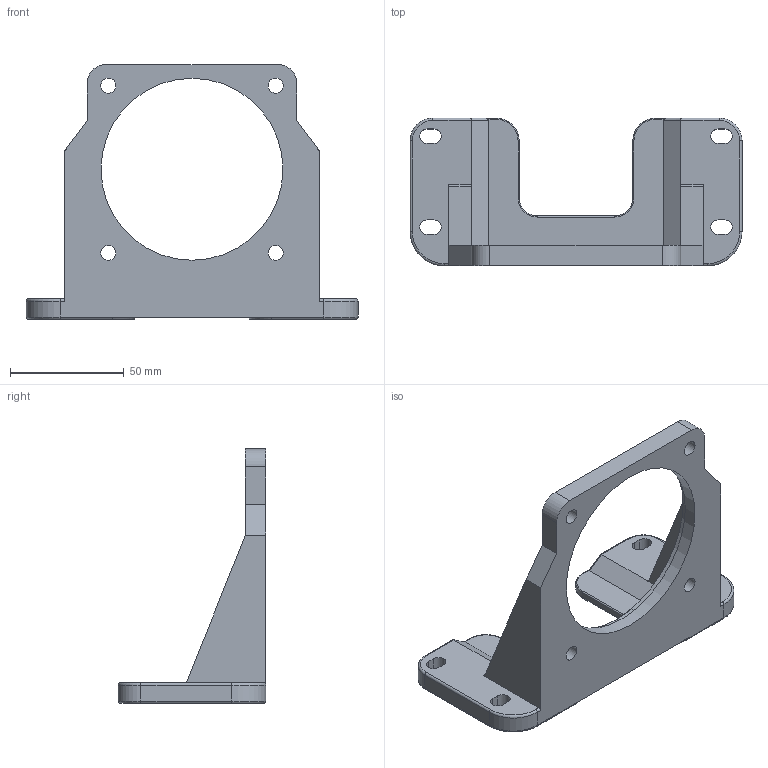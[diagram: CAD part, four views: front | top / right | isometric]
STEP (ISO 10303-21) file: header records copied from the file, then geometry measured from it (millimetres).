
FILE_DESCRIPTION((''),'2;1');
FILE_NAME('E:\2공장-도면\3D\표준형 3D(민규)\step file\BRACKET\K9B-M8..stp','2014-11-25T12:40:19',('AHN'),(''),'Autodesk Inventor 2012','Autodesk Inventor 2012','');
FILE_SCHEMA(('CONFIG_CONTROL_DESIGN'));
Length unit declared in the file: millimetre
Products named in the file (1): K9B-M8.
Bounding box: 146 x 65 x 112 mm (x, y, z)
Volume: 103490.3 mm3; surface area: 40274.1 mm2
Topology: 1 solids, 1 shells, 215 faces, 566 edges, 365 vertices
Faces by surface type: cylinder 114, plane 84, torus 17
Full cylindrical faces by diameter (mm): 6.6 x4, 80 x1, 83.2 x1
Entity records: 6730 total; most frequent: DIRECTION 1234, CARTESIAN_POINT 1158, ORIENTED_EDGE 1118, EDGE_CURVE 559, AXIS2_PLACEMENT_3D 461, VERTEX_POINT 365, VECTOR 312, LINE 312
